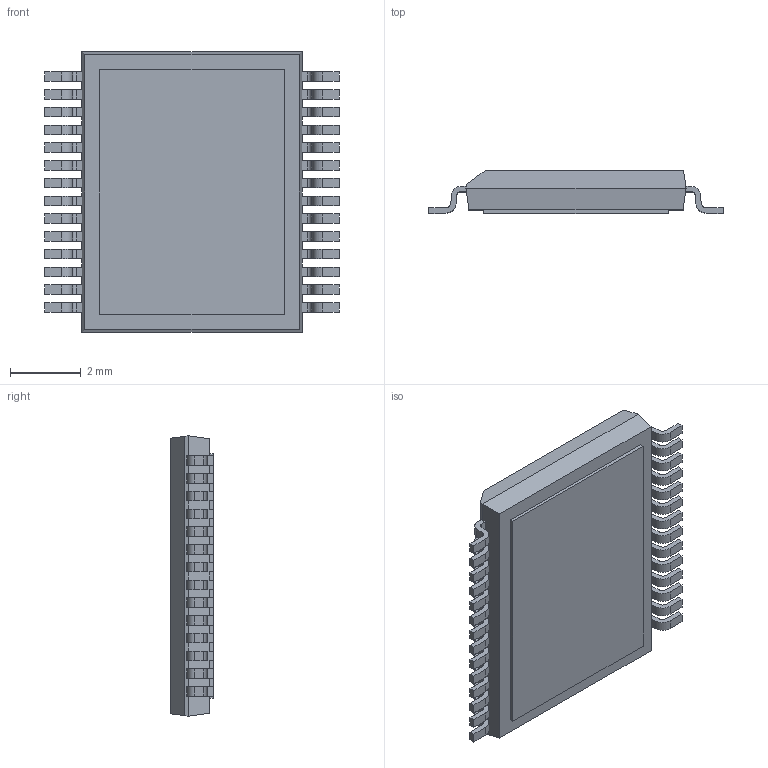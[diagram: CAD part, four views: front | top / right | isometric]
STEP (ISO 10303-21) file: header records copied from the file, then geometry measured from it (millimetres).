
FILE_DESCRIPTION (( 'STEP AP214' ), '1' );
FILE_NAME ('TSSOP50P810X120-28TP_MO-153.EAT.STEP', '2014-10-29T08:31:34', ( 'Tester2' ), ( '' ), 'SwSTEP 2.0', 'SolidWorks 2012', '' );
FILE_SCHEMA (( 'AUTOMOTIVE_DESIGN' ));
Length unit declared in the file: millimetre
Products named in the file (1): TSSOP50P810X120-28TP_MO-153.EAT
Bounding box: 8.3 x 1.2 x 7.9 mm (x, y, z)
Volume: 57.2 mm3; surface area: 159.8 mm2
Topology: 1 solids, 1 shells, 383 faces, 1133 edges, 754 vertices
Faces by surface type: plane 269, cylinder 114
Entity records: 16869 total; most frequent: CARTESIAN_POINT 2271, ORIENTED_EDGE 2266, DIRECTION 2129, EDGE_CURVE 1133, LINE 905, VECTOR 905, VERTEX_POINT 754, AXIS2_PLACEMENT_3D 612
